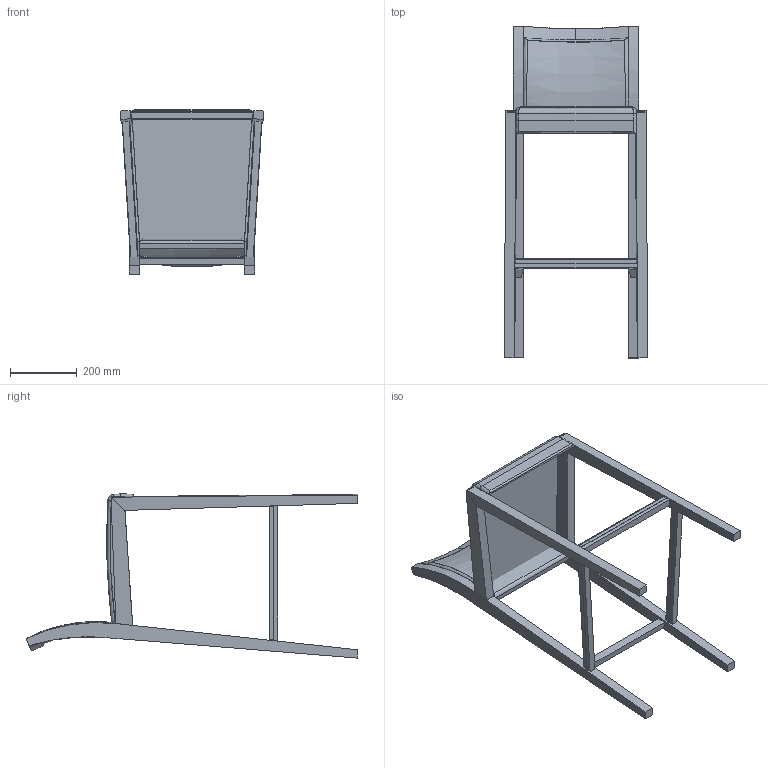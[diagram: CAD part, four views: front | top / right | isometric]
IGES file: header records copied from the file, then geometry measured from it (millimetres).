
Start section: SolidWorks IGES file using analytic representation for surfaces
Global section: file name: C:\Users\Adao\Documents\Trab Adao\Desenho técnico PRODUÇÃO\J M S\CASSIS\Linha CASSIS (sat)\BANCO M-20.IGS; native system: SolidWorks 2012; preprocessor: SolidWorks 2012; author: Adao; date: 121023.095356; units: millimetre
Bounding box: 430.1 x 994.47 x 491.95 mm (x, y, z)
Surface area: 1393988.9 mm2 (no closed solid volume)
Topology: 0 solids, 0 shells, 228 faces, 2115 edges, 2112 vertices
Faces by surface type: bspline 195, revolution 33
